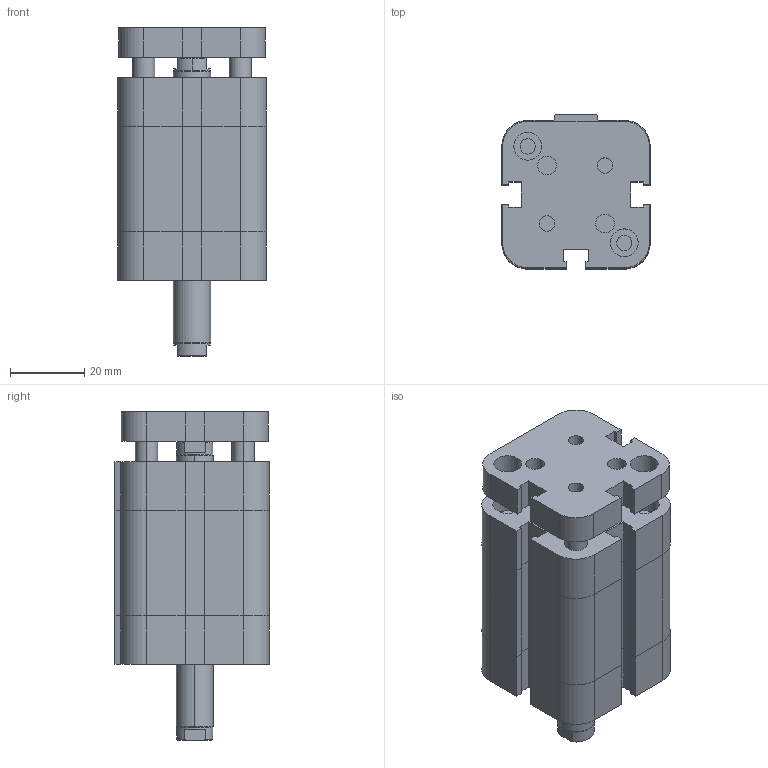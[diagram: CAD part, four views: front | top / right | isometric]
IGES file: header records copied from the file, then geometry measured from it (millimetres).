
Global section: file name: No Iges File Name specified; native system: Autodesk Inventor 2009; preprocessor: AutoDesk Inventor Iges Exporter R2009; author: maffial1; date: 20090420.202019; units: millimetre
Bounding box: 40 x 41.5 x 88.5 mm (x, y, z)
Volume: 90828.4 mm3; surface area: 26473.6 mm2
Topology: 2 solids, 2 shells, 241 faces, 570 edges, 354 vertices
Faces by surface type: plane 135, bspline 72, cylinder 26, cone 8
